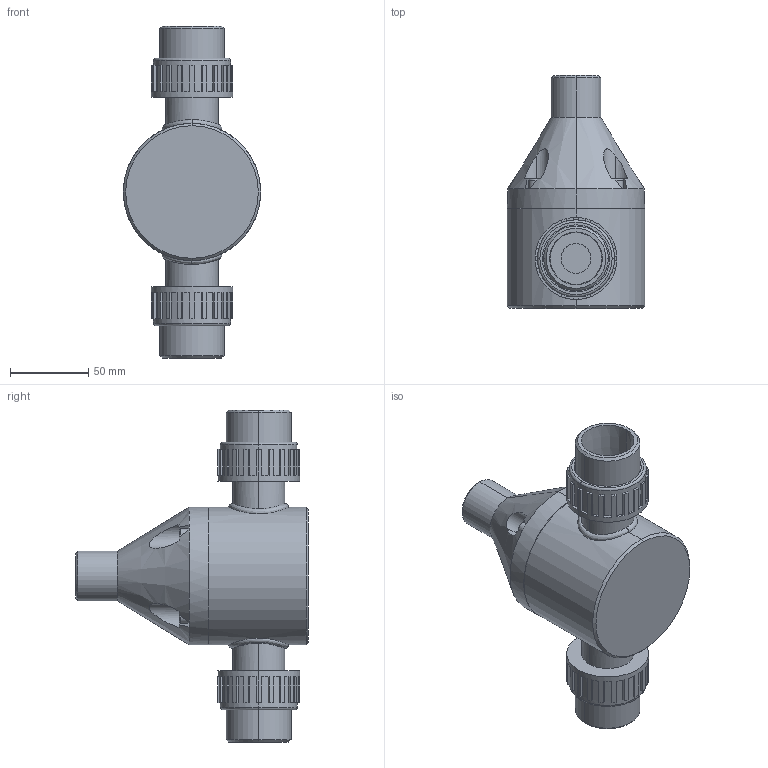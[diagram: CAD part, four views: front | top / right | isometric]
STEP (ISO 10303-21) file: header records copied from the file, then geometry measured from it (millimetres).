
FILE_DESCRIPTION (( 'STEP AP203' ), '1' );
FILE_NAME ('GBP1000-UNION.STEP', '2016-09-05T10:14:49', ( '' ), ( '' ), 'SwSTEP 2.0', 'SolidWorks 2014', '' );
FILE_SCHEMA (( 'CONFIG_CONTROL_DESIGN' ));
Length unit declared in the file: inch
Products named in the file (2): GBP1000-UNION
Bounding box: 87.63 x 148.59 x 211.84 mm (x, y, z)
Volume: 738529.2 mm3; surface area: 82389.7 mm2
Topology: 1 solids, 3 shells, 335 faces, 881 edges, 575 vertices
Faces by surface type: plane 245, cylinder 52, cone 28, bspline 6, torus 4
Entity records: 12622 total; most frequent: CARTESIAN_POINT 3993, DIRECTION 1818, ORIENTED_EDGE 1762, EDGE_CURVE 881, AXIS2_PLACEMENT_3D 643, VERTEX_POINT 575, LINE 532, VECTOR 532
